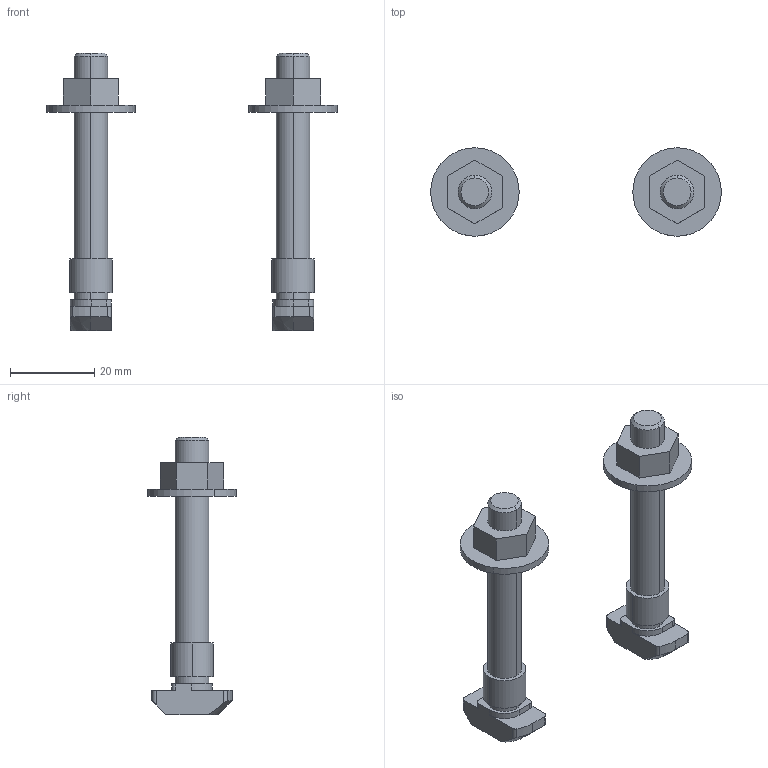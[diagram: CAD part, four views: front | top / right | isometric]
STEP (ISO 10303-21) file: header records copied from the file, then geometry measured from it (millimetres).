
FILE_DESCRIPTION (( 'STEP AP203' ), '1' );
FILE_NAME ('75000036-ASMEL-50.STEP', '2016-11-22T10:36:15', ( '' ), ( '' ), 'SwSTEP 2.0', 'SolidWorks 2015', '' );
FILE_SCHEMA (( 'CONFIG_CONTROL_DESIGN' ));
Length unit declared in the file: millimetre
Products named in the file (1): 75000036-ASMEL-50
Bounding box: 69 x 21 x 65.8 mm (x, y, z)
Volume: 10669.9 mm3; surface area: 6857.9 mm2
Topology: 2 solids, 2 shells, 100 faces, 246 edges, 160 vertices
Faces by surface type: plane 48, cylinder 44, cone 8
Entity records: 3289 total; most frequent: CARTESIAN_POINT 803, DIRECTION 508, ORIENTED_EDGE 492, EDGE_CURVE 246, AXIS2_PLACEMENT_3D 181, VERTEX_POINT 160, LINE 146, VECTOR 146
